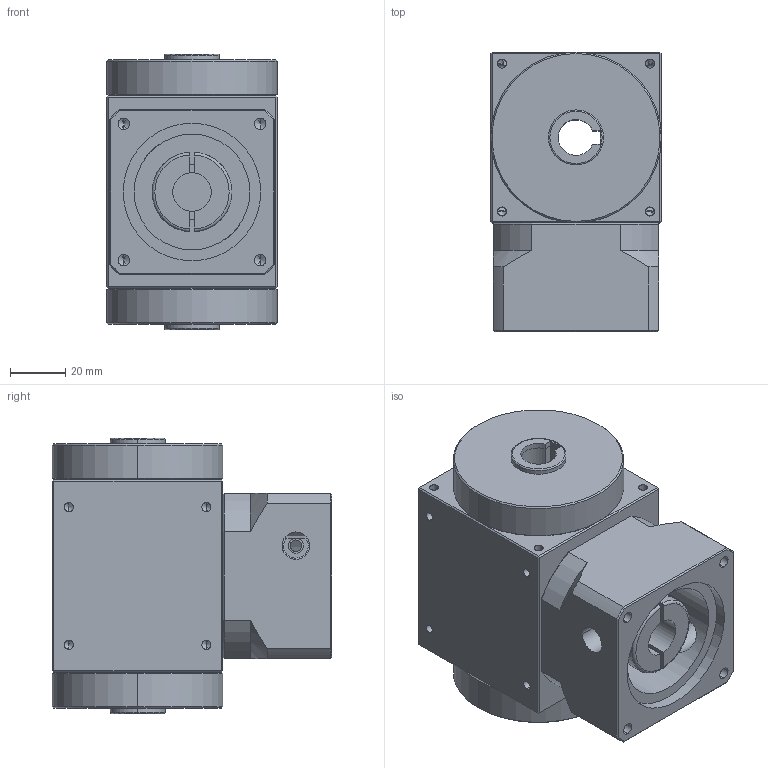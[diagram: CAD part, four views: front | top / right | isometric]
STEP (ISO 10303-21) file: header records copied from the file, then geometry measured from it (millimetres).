
FILE_DESCRIPTION (( 'STEP AP203' ), '1' );
FILE_NAME ('KHT60-H-L0£r50PCD£r70M5.STEP', '2014-03-24T05:04:21', ( 'KELLY' ), ( '' ), 'SwSTEP 2.0', 'SolidWorks 2012', '' );
FILE_SCHEMA (( 'CONFIG_CONTROL_DESIGN' ));
Length unit declared in the file: millimetre
Products named in the file (1): KHT60-H-L0｣r50PCD｣r70M5
Bounding box: 62 x 101.5 x 100 mm (x, y, z)
Volume: 426455 mm3; surface area: 67898.6 mm2
Topology: 4 solids, 4 shells, 258 faces, 656 edges, 366 vertices
Faces by surface type: cylinder 109, plane 73, cone 68, torus 8
Entity records: 8308 total; most frequent: CARTESIAN_POINT 2302, DIRECTION 1242, ORIENTED_EDGE 1216, EDGE_CURVE 608, AXIS2_PLACEMENT_3D 475, VERTEX_POINT 366, EDGE_LOOP 308, LINE 292
